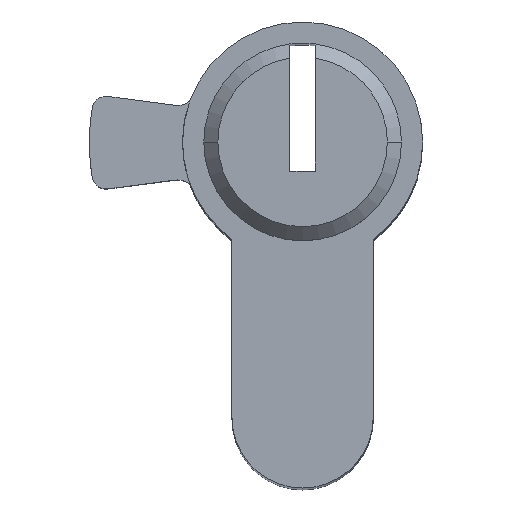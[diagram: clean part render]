
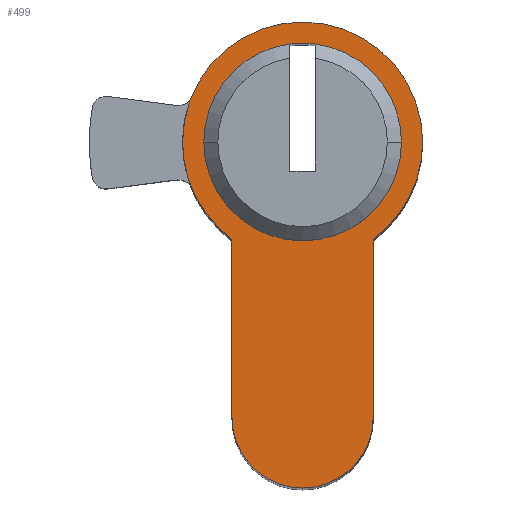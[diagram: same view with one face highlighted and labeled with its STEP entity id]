
A CAD part, top view. The second image highlights one B-rep face of the part: STEP entity #499.
In plain terms, the highlighted planar face has unit normal (0, 0, 1).
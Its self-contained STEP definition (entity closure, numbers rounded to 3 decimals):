
#1 = CARTESIAN_POINT ( 'NONE',  ( 5., -19.5, 30. ) ) ;
#4 = VERTEX_POINT ( 'NONE', #1106 ) ;
#13 = DIRECTION ( 'NONE',  ( 0., 0., 1. ) ) ;
#30 = ORIENTED_EDGE ( 'NONE', *, *, #765, .F. ) ;
#42 = FACE_BOUND ( 'NONE', #343, .T. ) ;
#43 = DIRECTION ( 'NONE',  ( 0., -1., 0. ) ) ;
#52 = CARTESIAN_POINT ( 'NONE',  ( 0., 0., 30. ) ) ;
#67 = DIRECTION ( 'NONE',  ( 0., 1., 0. ) ) ;
#76 = AXIS2_PLACEMENT_3D ( 'NONE', #401, #840, #553 ) ;
#85 = ORIENTED_EDGE ( 'NONE', *, *, #1578, .T. ) ;
#139 = DIRECTION ( 'NONE',  ( 1., 0., 0. ) ) ;
#252 = VERTEX_POINT ( 'NONE', #938 ) ;
#297 = CARTESIAN_POINT ( 'NONE',  ( -8.5, 0., 30. ) ) ;
#312 = CIRCLE ( 'NONE', #622, 5. ) ;
#317 = LINE ( 'NONE', #1473, #1311 ) ;
#329 = EDGE_CURVE ( 'NONE', #797, #1485, #650, .T. ) ;
#338 = CIRCLE ( 'NONE', #831, 7. ) ;
#343 = EDGE_LOOP ( 'NONE', ( #750, #1752, #30, #578 ) ) ;
#365 = CARTESIAN_POINT ( 'NONE',  ( 0., 0., 30. ) ) ;
#368 = AXIS2_PLACEMENT_3D ( 'NONE', #1783, #540, #1652 ) ;
#401 = CARTESIAN_POINT ( 'NONE',  ( 0., 0., 30. ) ) ;
#437 = ORIENTED_EDGE ( 'NONE', *, *, #673, .T. ) ;
#441 = ORIENTED_EDGE ( 'NONE', *, *, #637, .T. ) ;
#451 = CARTESIAN_POINT ( 'NONE',  ( -5., -6.874, 30. ) ) ;
#465 = DIRECTION ( 'NONE',  ( 1., 0., 0. ) ) ;
#494 = CARTESIAN_POINT ( 'NONE',  ( 0., 0., 30. ) ) ;
#499 = ADVANCED_FACE ( 'NONE', ( #42, #1699 ), #1568, .T. ) ;
#502 = DIRECTION ( 'NONE',  ( 0., 0., 1. ) ) ;
#506 = AXIS2_PLACEMENT_3D ( 'NONE', #494, #783, #656 ) ;
#538 = VECTOR ( 'NONE', #43, 1000. ) ;
#540 = DIRECTION ( 'NONE',  ( 0., 0., 1. ) ) ;
#551 = ORIENTED_EDGE ( 'NONE', *, *, #1655, .T. ) ;
#553 = DIRECTION ( 'NONE',  ( 1., 0., 0. ) ) ;
#578 = ORIENTED_EDGE ( 'NONE', *, *, #1094, .F. ) ;
#622 = AXIS2_PLACEMENT_3D ( 'NONE', #962, #1236, #139 ) ;
#637 = EDGE_CURVE ( 'NONE', #809, #797, #1283, .T. ) ;
#650 = CIRCLE ( 'NONE', #368, 8.5 ) ;
#653 = CIRCLE ( 'NONE', #1345, 7. ) ;
#656 = DIRECTION ( 'NONE',  ( 1., 0., 0. ) ) ;
#673 = EDGE_CURVE ( 'NONE', #703, #809, #1575, .T. ) ;
#703 = VERTEX_POINT ( 'NONE', #950 ) ;
#750 = ORIENTED_EDGE ( 'NONE', *, *, #1074, .F. ) ;
#765 = EDGE_CURVE ( 'NONE', #4, #252, #1403, .T. ) ;
#771 = AXIS2_PLACEMENT_3D ( 'NONE', #52, #1303, #465 ) ;
#779 = AXIS2_PLACEMENT_3D ( 'NONE', #365, #1059, #1086 ) ;
#783 = DIRECTION ( 'NONE',  ( 0., 0., 1. ) ) ;
#797 = VERTEX_POINT ( 'NONE', #297 ) ;
#809 = VERTEX_POINT ( 'NONE', #1396 ) ;
#831 = AXIS2_PLACEMENT_3D ( 'NONE', #1091, #1080, #958 ) ;
#840 = DIRECTION ( 'NONE',  ( 0., 0., 1. ) ) ;
#882 = AXIS2_PLACEMENT_3D ( 'NONE', #1075, #502, #1622 ) ;
#900 = CARTESIAN_POINT ( 'NONE',  ( -5., -6.874, 30. ) ) ;
#938 = CARTESIAN_POINT ( 'NONE',  ( 7., 0., 30. ) ) ;
#950 = CARTESIAN_POINT ( 'NONE',  ( 5., -6.874, 30. ) ) ;
#954 = EDGE_CURVE ( 'NONE', #1585, #703, #317, .T. ) ;
#958 = DIRECTION ( 'NONE',  ( 1., 0., 0. ) ) ;
#962 = CARTESIAN_POINT ( 'NONE',  ( 0., -19.5, 30. ) ) ;
#982 = EDGE_LOOP ( 'NONE', ( #437, #441, #1437, #551, #85, #1477 ) ) ;
#1051 = CARTESIAN_POINT ( 'NONE',  ( 0.9, 6.942, 30. ) ) ;
#1059 = DIRECTION ( 'NONE',  ( 0., 0., 1. ) ) ;
#1074 = EDGE_CURVE ( 'NONE', #1234, #1541, #338, .T. ) ;
#1075 = CARTESIAN_POINT ( 'NONE',  ( 0., 0., 30. ) ) ;
#1080 = DIRECTION ( 'NONE',  ( 0., 0., 1. ) ) ;
#1086 = DIRECTION ( 'NONE',  ( 1., 0., 0. ) ) ;
#1091 = CARTESIAN_POINT ( 'NONE',  ( 0., 0., 30. ) ) ;
#1094 = EDGE_CURVE ( 'NONE', #1541, #4, #653, .T. ) ;
#1106 = CARTESIAN_POINT ( 'NONE',  ( -7., 0., 30. ) ) ;
#1123 = CIRCLE ( 'NONE', #779, 7. ) ;
#1234 = VERTEX_POINT ( 'NONE', #1051 ) ;
#1236 = DIRECTION ( 'NONE',  ( 0., 0., 1. ) ) ;
#1283 = CIRCLE ( 'NONE', #506, 8.5 ) ;
#1303 = DIRECTION ( 'NONE',  ( 0., 0., 1. ) ) ;
#1311 = VECTOR ( 'NONE', #67, 1000. ) ;
#1345 = AXIS2_PLACEMENT_3D ( 'NONE', #1535, #13, #1780 ) ;
#1396 = CARTESIAN_POINT ( 'NONE',  ( 8.5, 0., 30. ) ) ;
#1403 = CIRCLE ( 'NONE', #76, 7. ) ;
#1436 = EDGE_CURVE ( 'NONE', #252, #1234, #1123, .T. ) ;
#1437 = ORIENTED_EDGE ( 'NONE', *, *, #329, .T. ) ;
#1447 = CARTESIAN_POINT ( 'NONE',  ( -5., -19.5, 30. ) ) ;
#1473 = CARTESIAN_POINT ( 'NONE',  ( 5., -19.5, 30. ) ) ;
#1477 = ORIENTED_EDGE ( 'NONE', *, *, #954, .T. ) ;
#1485 = VERTEX_POINT ( 'NONE', #451 ) ;
#1535 = CARTESIAN_POINT ( 'NONE',  ( 0., 0., 30. ) ) ;
#1540 = CARTESIAN_POINT ( 'NONE',  ( -0.9, 6.942, 30. ) ) ;
#1541 = VERTEX_POINT ( 'NONE', #1540 ) ;
#1568 = PLANE ( 'NONE',  #771 ) ;
#1575 = CIRCLE ( 'NONE', #882, 8.5 ) ;
#1578 = EDGE_CURVE ( 'NONE', #1729, #1585, #312, .T. ) ;
#1585 = VERTEX_POINT ( 'NONE', #1 ) ;
#1587 = LINE ( 'NONE', #900, #538 ) ;
#1622 = DIRECTION ( 'NONE',  ( 1., 0., 0. ) ) ;
#1652 = DIRECTION ( 'NONE',  ( 1., 0., 0. ) ) ;
#1655 = EDGE_CURVE ( 'NONE', #1485, #1729, #1587, .T. ) ;
#1699 = FACE_OUTER_BOUND ( 'NONE', #982, .T. ) ;
#1729 = VERTEX_POINT ( 'NONE', #1447 ) ;
#1752 = ORIENTED_EDGE ( 'NONE', *, *, #1436, .F. ) ;
#1780 = DIRECTION ( 'NONE',  ( 1., 0., 0. ) ) ;
#1783 = CARTESIAN_POINT ( 'NONE',  ( 0., 0., 30. ) ) ;
